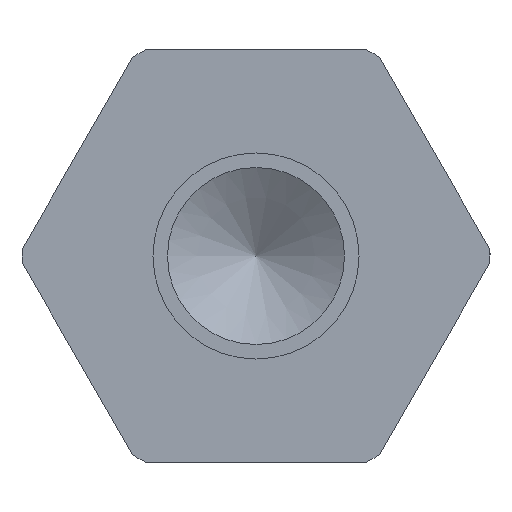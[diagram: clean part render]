
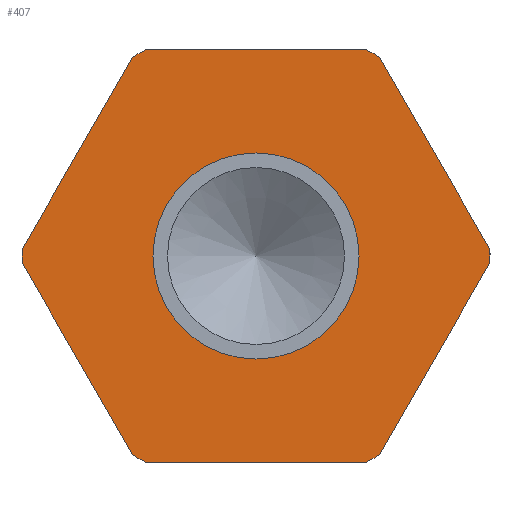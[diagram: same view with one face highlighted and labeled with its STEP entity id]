
A CAD part, left-side view. The second image highlights one B-rep face of the part: STEP entity #407.
In plain terms, the highlighted planar face has unit normal (-1, 0, 0).
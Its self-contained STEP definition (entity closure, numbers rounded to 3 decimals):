
#20=LINE($,#640,#44);
#23=LINE($,#646,#47);
#25=LINE($,#651,#49);
#28=LINE($,#657,#52);
#31=LINE($,#663,#55);
#35=LINE($,#682,#59);
#44=VECTOR($,#512,2.133);
#47=VECTOR($,#517,2.133);
#49=VECTOR($,#521,2.133);
#52=VECTOR($,#526,2.133);
#55=VECTOR($,#531,2.133);
#59=VECTOR($,#559,2.133);
#67=PLANE($,#451);
#77=FACE_BOUND($,#140,.T.);
#78=FACE_BOUND($,#141,.T.);
#140=EDGE_LOOP($,(#327));
#141=EDGE_LOOP($,(#328,#329,#330,#331,#332,#333,#334,#335,#336,#337,#338,
#339));
#171=CIRCLE($,#442,2.25);
#172=CIRCLE($,#444,2.25);
#173=CIRCLE($,#446,2.25);
#174=CIRCLE($,#448,2.25);
#175=CIRCLE($,#450,2.25);
#176=CIRCLE($,#452,0.991);
#177=CIRCLE($,#453,2.25);
#201=VERTEX_POINT($,#636);
#202=VERTEX_POINT($,#638);
#203=VERTEX_POINT($,#642);
#204=VERTEX_POINT($,#644);
#205=VERTEX_POINT($,#648);
#206=VERTEX_POINT($,#650);
#207=VERTEX_POINT($,#654);
#208=VERTEX_POINT($,#656);
#209=VERTEX_POINT($,#660);
#210=VERTEX_POINT($,#662);
#211=VERTEX_POINT($,#666);
#212=VERTEX_POINT($,#674);
#213=VERTEX_POINT($,#680);
#239=EDGE_CURVE($,#201,#202,#20,.T.);
#242=EDGE_CURVE($,#203,#204,#23,.T.);
#244=EDGE_CURVE($,#206,#205,#25,.T.);
#247=EDGE_CURVE($,#208,#207,#28,.T.);
#250=EDGE_CURVE($,#210,#209,#31,.T.);
#252=EDGE_CURVE($,#211,#210,#171,.T.);
#254=EDGE_CURVE($,#209,#208,#172,.T.);
#255=EDGE_CURVE($,#207,#206,#173,.T.);
#257=EDGE_CURVE($,#202,#212,#174,.T.);
#258=EDGE_CURVE($,#205,#203,#175,.T.);
#259=EDGE_CURVE($,#213,#213,#176,.T.);
#260=EDGE_CURVE($,#212,#211,#35,.T.);
#261=EDGE_CURVE($,#204,#201,#177,.T.);
#327=ORIENTED_EDGE($,*,*,#259,.F.);
#328=ORIENTED_EDGE($,*,*,#239,.T.);
#329=ORIENTED_EDGE($,*,*,#257,.T.);
#330=ORIENTED_EDGE($,*,*,#260,.T.);
#331=ORIENTED_EDGE($,*,*,#252,.T.);
#332=ORIENTED_EDGE($,*,*,#250,.T.);
#333=ORIENTED_EDGE($,*,*,#254,.T.);
#334=ORIENTED_EDGE($,*,*,#247,.T.);
#335=ORIENTED_EDGE($,*,*,#255,.T.);
#336=ORIENTED_EDGE($,*,*,#244,.T.);
#337=ORIENTED_EDGE($,*,*,#258,.T.);
#338=ORIENTED_EDGE($,*,*,#242,.T.);
#339=ORIENTED_EDGE($,*,*,#261,.T.);
#407=ADVANCED_FACE($,(#77,#78),#67,.T.);
#442=AXIS2_PLACEMENT_3D($,#667,#535,#536);
#444=AXIS2_PLACEMENT_3D($,#670,#540,#541);
#446=AXIS2_PLACEMENT_3D($,#672,#544,#545);
#448=AXIS2_PLACEMENT_3D($,#676,#549,#550);
#450=AXIS2_PLACEMENT_3D($,#678,#553,#554);
#451=AXIS2_PLACEMENT_3D($,#679,#555,#556);
#452=AXIS2_PLACEMENT_3D($,#681,#557,#558);
#453=AXIS2_PLACEMENT_3D($,#683,#560,#561);
#512=DIRECTION($,(0.,-0.5,-0.866));
#517=DIRECTION($,(0.,0.5,-0.866));
#521=DIRECTION($,(0.,1.,0.));
#526=DIRECTION($,(0.,0.5,0.866));
#531=DIRECTION($,(0.,-0.5,0.866));
#535=DIRECTION('center_axis',(-1.,0.,0.));
#536=DIRECTION('ref_axis',(0.,1.,0.));
#540=DIRECTION('center_axis',(-1.,0.,0.));
#541=DIRECTION('ref_axis',(0.,1.,0.));
#544=DIRECTION('center_axis',(-1.,0.,0.));
#545=DIRECTION('ref_axis',(0.,1.,0.));
#549=DIRECTION('center_axis',(-1.,0.,0.));
#550=DIRECTION('ref_axis',(0.,1.,0.));
#553=DIRECTION('center_axis',(-1.,0.,0.));
#554=DIRECTION('ref_axis',(0.,1.,0.));
#555=DIRECTION('center_axis',(-1.,0.,0.));
#556=DIRECTION('ref_axis',(0.,0.,1.));
#557=DIRECTION('center_axis',(-1.,0.,0.));
#558=DIRECTION('ref_axis',(0.,1.,0.));
#559=DIRECTION($,(0.,-1.,0.));
#560=DIRECTION('center_axis',(-1.,0.,0.));
#561=DIRECTION('ref_axis',(0.,1.,0.));
#636=CARTESIAN_POINT('',(-6.029,1.486,-0.067));
#638=CARTESIAN_POINT('',(-6.029,0.42,-1.914));
#640=CARTESIAN_POINT($,(-6.029,1.154,-0.643));
#642=CARTESIAN_POINT('',(-6.029,0.42,1.914));
#644=CARTESIAN_POINT('',(-6.029,1.486,0.067));
#646=CARTESIAN_POINT($,(-6.029,1.158,0.636));
#648=CARTESIAN_POINT('',(-6.029,0.304,1.981));
#650=CARTESIAN_POINT('',(-6.029,-1.829,1.981));
#651=CARTESIAN_POINT($,(-6.029,0.052,1.981));
#654=CARTESIAN_POINT('',(-6.029,-1.945,1.914));
#656=CARTESIAN_POINT('',(-6.029,-3.012,0.067));
#657=CARTESIAN_POINT($,(-6.029,-2.274,1.345));
#660=CARTESIAN_POINT('',(-6.029,-3.012,-0.067));
#662=CARTESIAN_POINT('',(-6.029,-1.945,-1.914));
#663=CARTESIAN_POINT($,(-6.029,-2.278,-1.338));
#666=CARTESIAN_POINT('',(-6.029,-1.829,-1.981));
#667=CARTESIAN_POINT('Origin',(-6.029,-0.763,0.));
#670=CARTESIAN_POINT('Origin',(-6.029,-0.763,0.));
#672=CARTESIAN_POINT('Origin',(-6.029,-0.763,0.));
#674=CARTESIAN_POINT('',(-6.029,0.304,-1.981));
#676=CARTESIAN_POINT('Origin',(-6.029,-0.763,0.));
#678=CARTESIAN_POINT('Origin',(-6.029,-0.763,0.));
#679=CARTESIAN_POINT('Origin',(-6.029,0.858,0.));
#680=CARTESIAN_POINT('',(-6.029,0.228,0.));
#681=CARTESIAN_POINT('Origin',(-6.029,-0.763,0.));
#682=CARTESIAN_POINT($,(-6.029,0.043,-1.981));
#683=CARTESIAN_POINT('Origin',(-6.029,-0.763,0.));
